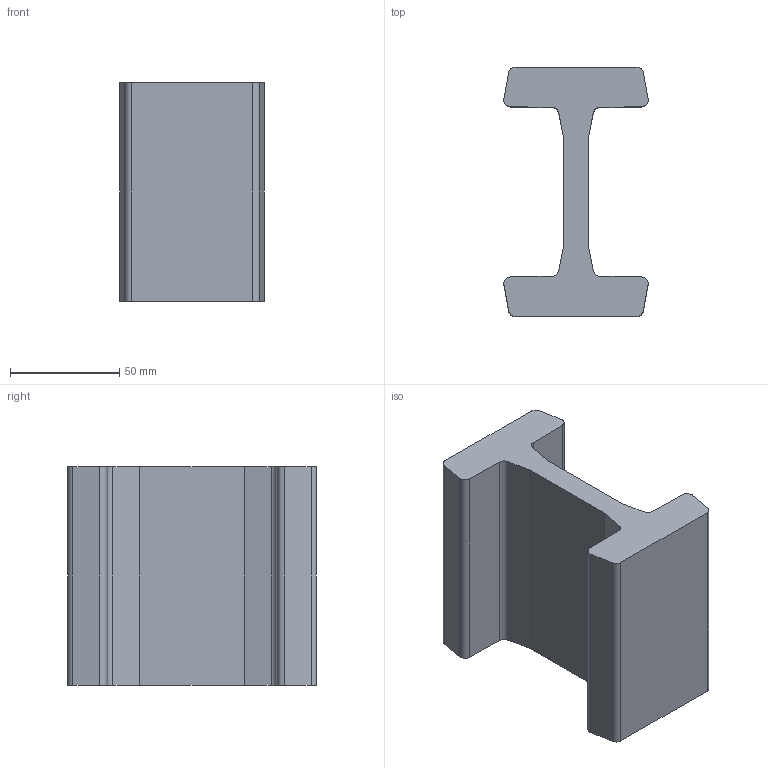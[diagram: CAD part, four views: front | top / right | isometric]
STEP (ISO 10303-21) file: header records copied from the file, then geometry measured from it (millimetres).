
FILE_DESCRIPTION (( 'STEP AP203' ), '1' );
FILE_NAME ('3D3019.STEP', '2002-11-20T10:05:23', ( 'Francesc' ), ( 'propia' ), 'SwSTEP 2.0', 'SolidWorks 2001039', '' );
FILE_SCHEMA (( 'CONFIG_CONTROL_DESIGN' ));
Length unit declared in the file: millimetre
Products named in the file (1): 2
Bounding box: 66 x 113.9 x 100 mm (x, y, z)
Volume: 325431.4 mm3; surface area: 50177.1 mm2
Topology: 1 solids, 1 shells, 32 faces, 90 edges, 60 vertices
Faces by surface type: plane 18, cylinder 14
Entity records: 1119 total; most frequent: DIRECTION 184, CARTESIAN_POINT 183, ORIENTED_EDGE 180, EDGE_CURVE 90, LINE 62, VECTOR 62, AXIS2_PLACEMENT_3D 61, VERTEX_POINT 60
